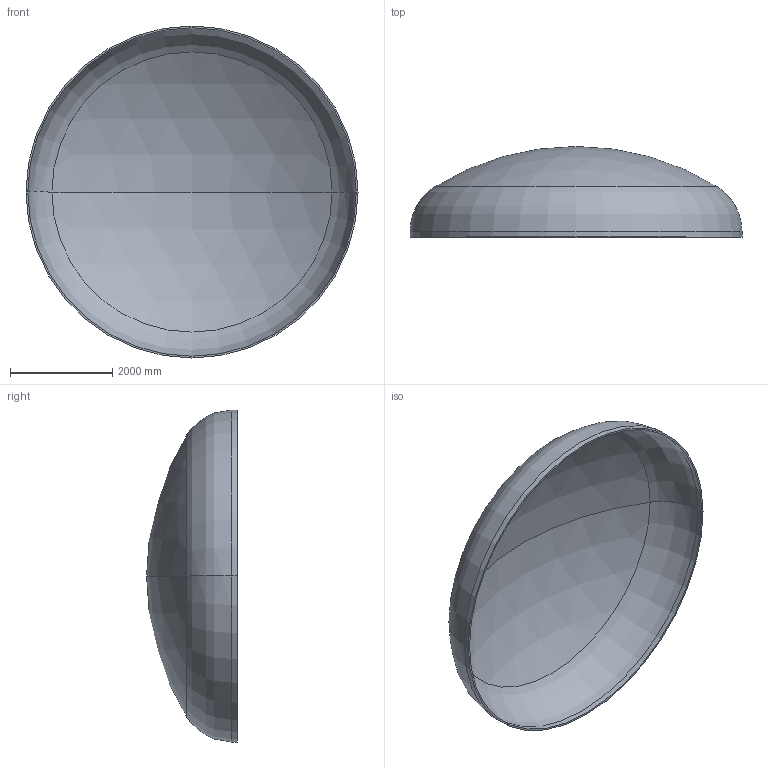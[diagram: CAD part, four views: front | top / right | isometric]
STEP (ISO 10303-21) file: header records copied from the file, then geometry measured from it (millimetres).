
FILE_DESCRIPTION (( 'STEP AP203' ), '1' );
FILE_NAME ('DIN 28013 Korbbogenform_-_Boden DIN 28013 - 6500 x 110 - I - s=34.step', '2016-07-04T10:41:22', ( '' ), ( '' ), 'SwSTEP 2.0', 'SolidWorks 2013', '' );
FILE_SCHEMA (( 'CONFIG_CONTROL_DESIGN' ));
Length unit declared in the file: millimetre
Products named in the file (1): DIN 28013 Korbbogenform_-_Boden DIN 28013 - 6500 x 110 - I - s=34
Bounding box: 6500 x 1776.18 x 6500 mm (x, y, z)
Volume: 1627526574.7 mm3; surface area: 96429901 mm2
Topology: 1 solids, 1 shells, 13 faces, 24 edges, 14 vertices
Faces by surface type: torus 4, cylinder 4, sphere 4, plane 1
Entity records: 407 total; most frequent: DIRECTION 72, CARTESIAN_POINT 52, ORIENTED_EDGE 48, AXIS2_PLACEMENT_3D 34, EDGE_CURVE 24, CIRCLE 20, VERTEX_POINT 14, EDGE_LOOP 14
